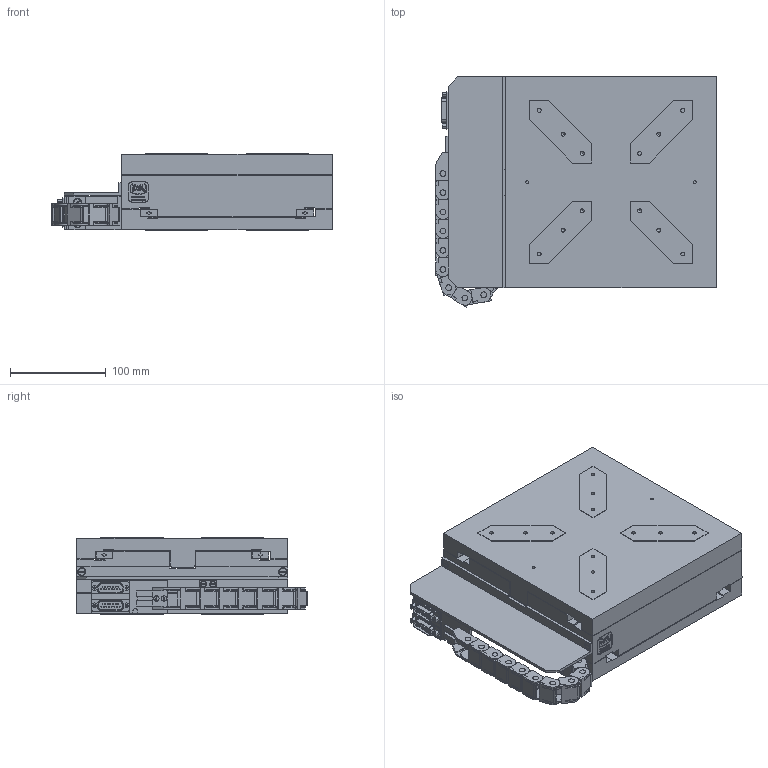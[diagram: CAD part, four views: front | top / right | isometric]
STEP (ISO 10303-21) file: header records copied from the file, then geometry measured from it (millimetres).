
FILE_DESCRIPTION(/* description */ (''),/* implementation_level */ '2;1');
FILE_NAME(/* name */ 'H:\Inventor\Katalog\3D-CAD-Modelle\STP neu\GT6-NLMx-CAD.stp',/* time_stamp */ '2024-01-16T11:30:09+01:00',/* author */ ('KON3'),/* organization */ (''),/* preprocessor_version */ 'ST-DEVELOPER v18',/* originating_system */ 'Autodesk Inventor 2020',/* authorisation */ '');
FILE_SCHEMA (('AUTOMOTIVE_DESIGN { 1 0 10303 214 3 1 1 }'));
Products named in the file (4): GT6-NLMx-CAD; GT6-NLMX_unten; GT6-NLMX_mitte; GT6-NLMX_oben
Assembly tree (3 placements, depth 2):
  GT6-NLMx-CAD
    GT6-NLMX_unten
    GT6-NLMX_mitte
    GT6-NLMX_oben
Bounding box: 293 x 240.4 x 80 mm (x, y, z)
Volume: 3867936.9 mm3; surface area: 584477.2 mm2
Topology: 77 solids, 77 shells, 3126 faces, 8205 edges, 5469 vertices
Faces by surface type: plane 1994, cylinder 652, bspline 388, cone 80, torus 12
Full cylindrical faces by diameter (mm): 1 x60, 2.156 x4, 2.459 x36, 3 x12, 3.2 x8, 3.242 x66, 3.4 x2, 4 x4, 4.134 x24, 4.5 x5, 5 x4, 5.5 x16, 6 x116, 6.647 x4, 8 x8, 11 x8
Entity records: 103627 total; most frequent: CARTESIAN_POINT 23510, ORIENTED_EDGE 16302, DIRECTION 14839, EDGE_CURVE 8151, LINE 5471, VECTOR 5471, VERTEX_POINT 5469, AXIS2_PLACEMENT_3D 4684
